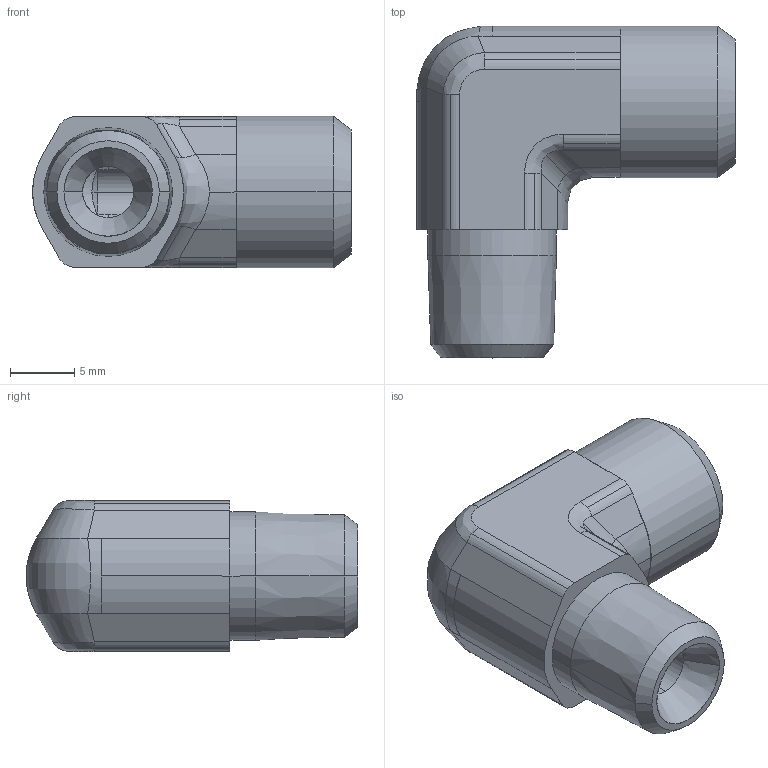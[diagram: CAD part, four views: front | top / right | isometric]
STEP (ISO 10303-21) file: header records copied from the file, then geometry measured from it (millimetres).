
FILE_DESCRIPTION((''),'2;1');
FILE_NAME('102004.stp','2007-10-30T16:29:46',(''),(''),'AutoCAD STEP 2000i','AutoCAD 2000i',', , ');
FILE_SCHEMA(('CONFIG_CONTROL_DESIGN'));
Length unit declared in the file: millimetre
Products named in the file (2): 102004.0; 3090#0
Assembly tree (1 placements, depth 2):
  102004.0
    3090#0
Bounding box: 24.9 x 25.93 x 11.85 mm (x, y, z)
Volume: 3325.5 mm3; surface area: 2067.9 mm2
Topology: 1 solids, 1 shells, 101 faces, 232 edges, 135 vertices
Faces by surface type: cylinder 44, plane 22, cone 21, bspline 14
Entity records: 3698 total; most frequent: CARTESIAN_POINT 1304, DIRECTION 513, ORIENTED_EDGE 464, EDGE_CURVE 232, AXIS2_PLACEMENT_3D 212, VERTEX_POINT 135, CIRCLE 105, EDGE_LOOP 105
